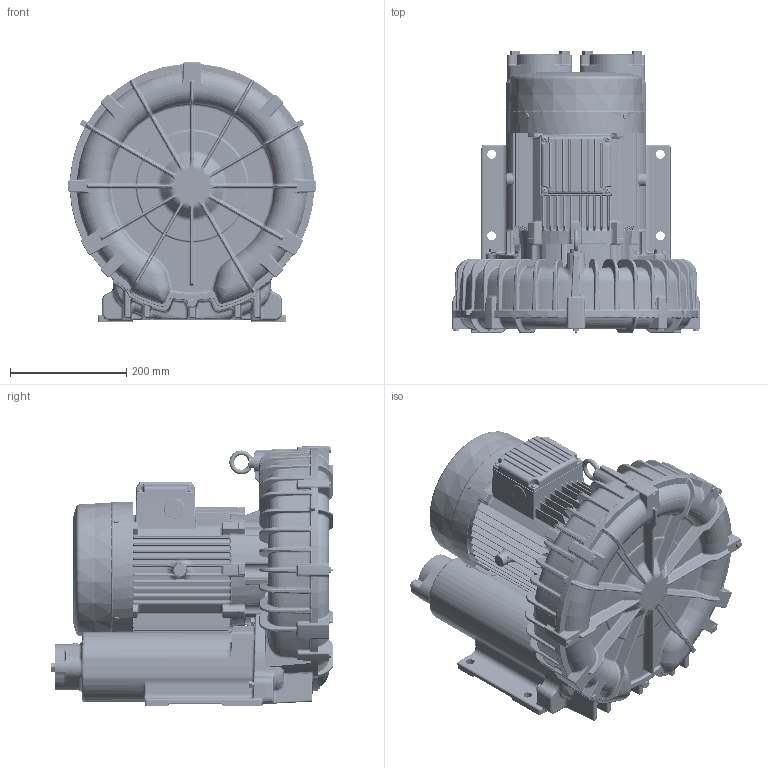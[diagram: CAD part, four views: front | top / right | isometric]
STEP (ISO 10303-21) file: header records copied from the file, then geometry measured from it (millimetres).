
FILE_DESCRIPTION(/* description */ (''),/* implementation_level */ '2;1');
FILE_NAME(/* name */ 'Z:\90_設計課\開發\鼓風機UL化\04-図面\RB 3D圖需求\VFZ701A-7W.stp',/* time_stamp */ '2017-01-12T15:51:29+08:00',/* author */ ('daniel'),/* organization */ (''),/* preprocessor_version */ 'ST-DEVELOPER v16.1',/* originating_system */ 'Autodesk Inventor 2016',/* authorisation */ '');
FILE_SCHEMA (('AUTOMOTIVE_DESIGN { 1 0 10303 214 3 1 1 }'));
Length unit declared in the file: millimetre
Products named in the file (1): VFZ701A-7W
Bounding box: 425.97 x 485.4 x 446.46 mm (x, y, z)
Volume: 29476993.8 mm3; surface area: 1584725.9 mm2
Topology: 1 solids, 2 shells, 8403 faces, 20227 edges, 11603 vertices
Faces by surface type: bspline 3524, cylinder 1541, plane 1492, torus 966, cone 532, sphere 348
Full cylindrical faces by diameter (mm): 8 x7, 15 x4, 56.656 x2, 96 x1, 226 x1, 233 x1, 234.6 x1
Entity records: 398066 total; most frequent: CARTESIAN_POINT 222810, ORIENTED_EDGE 39770, DIRECTION 30302, EDGE_CURVE 19876, AXIS2_PLACEMENT_3D 12829, VERTEX_POINT 11572, EDGE_LOOP 8529, FACE_OUTER_BOUND 8402
